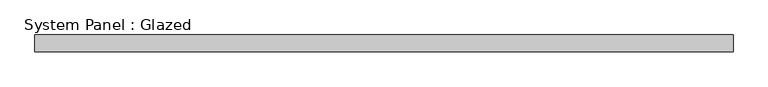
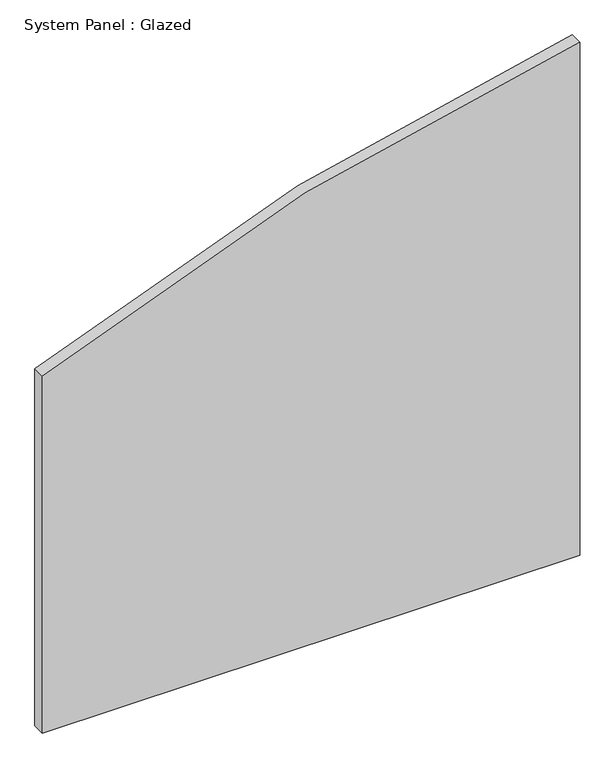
"""IFC4 building model written with IfcOpenShell, lengths in millimetres: plate geometry, System Panel : Glazed."""

from ifc_helpers import new_model, si_unit, point, frame, frame_2d, origin, place, context, project, spatial, polyline, circle_curve, trimmed, segment, composite_curve, outline, extrude, source, transform, mapped, element, save


def system_panel_glazed_fea3c0e9(model_context):
    return source(origin(), model_context, "Body", "SweptSolid", [
        extrude(outline(composite_curve([segment(polyline([(0.0, -534.3071428), (0.0, 534.3071428), (1077.8474032, 534.3071428)]), True, "CONTINUOUS"), segment(trimmed(circle_curve(frame_2d((-2774.95, 1132.1142856)), 3898.9), [point((1077.8474032, 534.3071428))], [point((749.884866, -534.3071428))], False, "CARTESIAN"), True, "CONTINUOUS"), segment(polyline([(749.884866, -534.3071428), (0.0, -534.3071428)]), True, "CONTINUOUS")], self_intersect=False)), frame((0.0, 19.05, 0.0), z_axis=(0.0, 1.0, 0.0), x_axis=(0.0, 0.0, 1.0)), (0.0, 0.0, 1.0), 25.4),
    ])


if __name__ == "__main__":
    model = new_model("IFC4")
    model_context = context("Model", 3, world=origin())
    ifc_project = project(units=[si_unit("LENGTHUNIT", "METRE", prefix="MILLI")], contexts=[model_context])
    site = spatial("IfcSite", under=ifc_project)
    building = spatial("IfcBuilding", under=site)
    placement = place(None, origin())
    system_panel_glazed_shape = system_panel_glazed_fea3c0e9(model_context)
    element("IfcPlate", 1, ObjectType="System Panel : Glazed", at=placement, inside=building, context=model_context, shape_type="MappedRepresentation", body=[
        mapped(system_panel_glazed_shape, transform((0.0, 0.0, 0.0), x_axis=(1.0, 0.0, 0.0), y_axis=(0.0, 1.0, 0.0), z_axis=(0.0, 0.0, 1.0))),
    ])
    save(model, "model.ifc")
